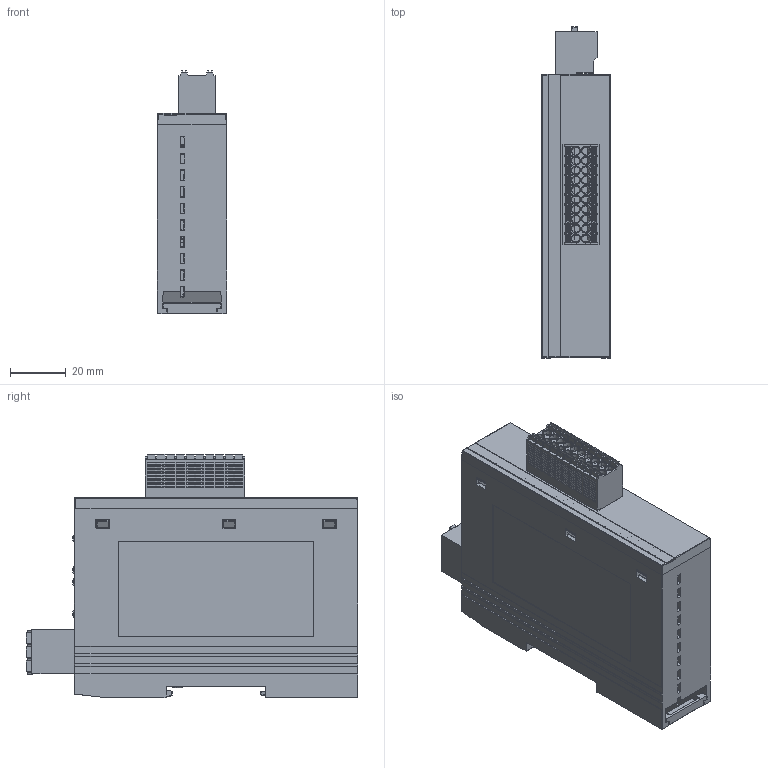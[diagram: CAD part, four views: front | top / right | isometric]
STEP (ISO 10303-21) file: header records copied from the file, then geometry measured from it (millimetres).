
FILE_DESCRIPTION((''),'2;1');
FILE_NAME('PRT0002_1_1','2022-09-20T09:58:26',('董'),(''),'CREO PARAMETRIC BY PTC INC, 2020033','CREO PARAMETRIC BY PTC INC, 2020033','');
FILE_SCHEMA(('CONFIG_CONTROL_DESIGN'));
Products named in the file (1): PRT0002_1_1
Bounding box: 25 x 119.4 x 87.5 mm (x, y, z)
Volume: 52752.1 mm3; surface area: 60513.7 mm2
Topology: 1 solids, 4 shells, 6352 faces, 17076 edges, 10552 vertices
Faces by surface type: plane 3853, cylinder 1739, bspline 366, sphere 152, cone 134, torus 108
Entity records: 210569 total; most frequent: CARTESIAN_POINT 55560, ORIENTED_EDGE 33878, DIRECTION 29816, EDGE_CURVE 16939, VECTOR 12278, LINE 12278, VERTEX_POINT 10552, AXIS2_PLACEMENT_3D 8769
